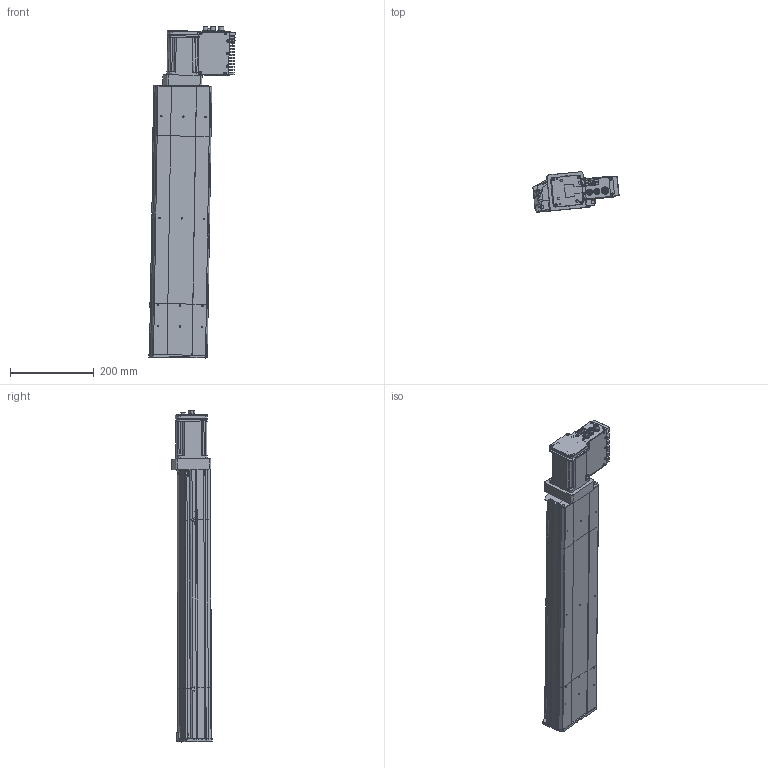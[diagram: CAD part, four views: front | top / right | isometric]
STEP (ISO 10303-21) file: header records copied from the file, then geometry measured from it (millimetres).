
FILE_DESCRIPTION (( 'STEP AP203' ), '1' );
FILE_NAME ('D14 TSH M4 MD L10 S400.STEP', '2012-10-08T07:50:19', ( '' ), ( '' ), 'SwSTEP 2.0', 'SolidWorks 2010', '' );
FILE_SCHEMA (( 'CONFIG_CONTROL_DESIGN' ));
Products named in the file (22): corp head D14_Default_2; T犨e contre le moteur_2; Sub D 9cts_2; T犨e fond_2; Connecteur rond D12 4cts_2; Moteur 70BLDC90A_2; couvercle D14 head_Default_2; Pièce400; Pièce402; D14 TSH M4 MD L10 S400; plaque de  bout head D14 MD_Default_2; Plaque racord D10.2_Default_2; corpl tail D14_Default_2; Moteur_2; Connecteur rond D10 3cts_2; Tôle Arrière_2; Couvercle_2; Tôle latérale_2; Colonnette_2; Radiateur_2; Vis TF 3 torkx_2; plaque de  bout tail D14_Default_2
Assembly tree (49 placements, depth 3):
  D14 TSH M4 MD L10 S400
    couvercle D14 head_Default_2  x2
    Pièce402
    Plaque racord D10.2_Default_2
    plaque de  bout tail D14_Default_2
    corp head D14_Default_2
    corpl tail D14_Default_2
    Moteur_2
      Tôle latérale_2  x2
      Couvercle_2
      Vis TF 3 torkx_2  x26
      T犨e contre le moteur_2
      T犨e fond_2
      Connecteur rond D10 3cts_2  x2
      Tôle Arrière_2
      Colonnette_2
      Connecteur rond D12 4cts_2
      Moteur 70BLDC90A_2
      Sub D 9cts_2
      Radiateur_2
    plaque de  bout head D14 MD_Default_2
    Pièce400
Bounding box: 205.49 x 95.58 x 791.08 mm (x, y, z)
Volume: 2502496.8 mm3; surface area: 872699.5 mm2
Topology: 70 solids, 70 shells, 2391 faces, 6227 edges, 4106 vertices
Faces by surface type: plane 1275, cylinder 852, cone 134, bspline 130
Entity records: 63964 total; most frequent: CARTESIAN_POINT 20708, ORIENTED_EDGE 8412, DIRECTION 8092, EDGE_CURVE 4206, VERTEX_POINT 2780, VECTOR 2772, LINE 2772, AXIS2_PLACEMENT_3D 2660
